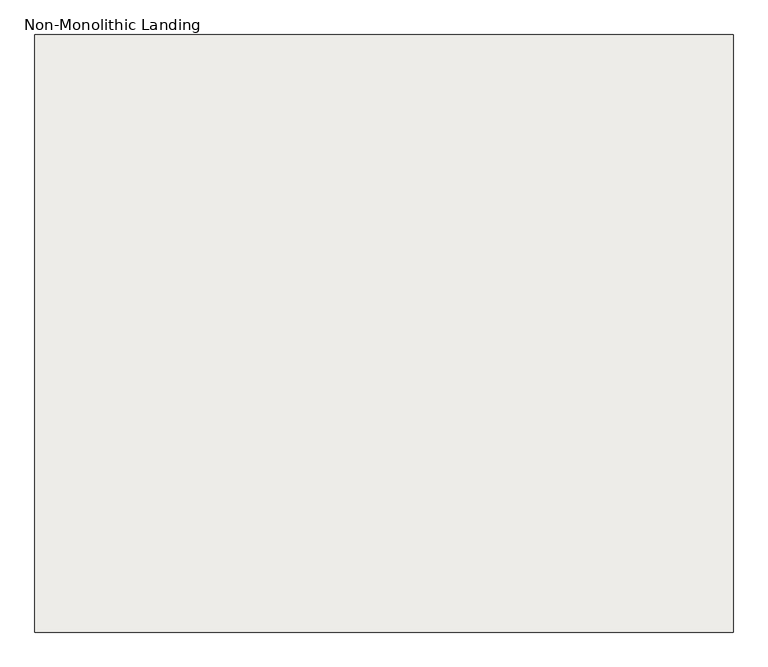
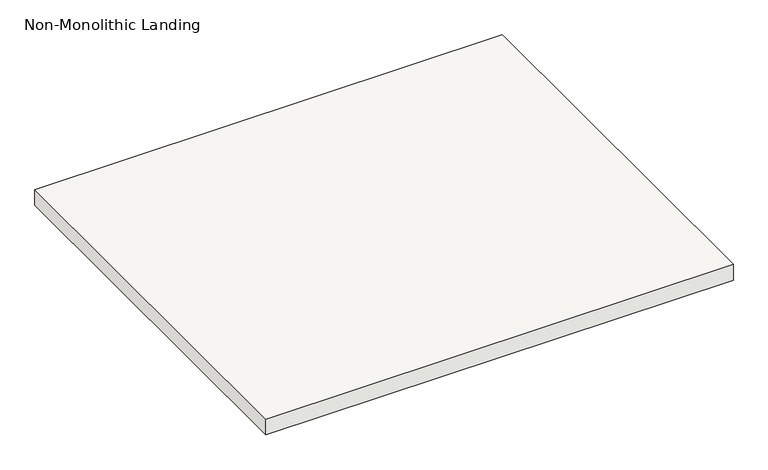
"""IFC4 building model written with IfcOpenShell, lengths in millimetres: slab geometry, Non-Monolithic Landing."""

import ifcopenshell
import ifcopenshell.guid

model = None  # the IFC model being written
_history = None  # IfcOwnerHistory: only IFC2X3 demands one
_inside = {}  # id of a spatial element -> (the spatial element, [elements in it])
_under = {}  # id of a project, library or spatial element -> (it, [spatial elements below it])
_declared = {}  # id of a project -> (the project, [libraries it declares])
_typed = {}  # id of a type object -> (the type object, [elements of that type])
_made_of = {}  # id of a material, layer set ... -> (it, [elements and type objects made of it])


def new_model(schema):
    """Start an empty IFC model of exactly this schema.

    Asked for "IFC4X3", IfcOpenShell would pick the latest addendum, in which some entities
    have other attributes; the version numbers below select the first issue.
    IFC2X3 requires an IfcOwnerHistory on every rooted entity: one is made here for all.
    """
    global model, _history
    if schema == "IFC4X3":
        model = ifcopenshell.file(schema_version=(4, 3, 0, 0))
    else:
        model = ifcopenshell.file(schema=schema)
    _inside.clear()
    _under.clear()
    _declared.clear()
    _typed.clear()
    _made_of.clear()
    _history = None
    if model.schema == "IFC2X3":
        org = make("IfcOrganization", Name="unknown")
        user = make(
            "IfcPersonAndOrganization",
            ThePerson=make("IfcPerson", FamilyName="unknown"),
            TheOrganization=org,
        )
        app = make(
            "IfcApplication",
            ApplicationDeveloper=org,
            Version="unknown",
            ApplicationFullName="unknown",
            ApplicationIdentifier="unknown",
        )
        _history = make(
            "IfcOwnerHistory",
            OwningUser=user,
            OwningApplication=app,
            ChangeAction="ADDED",
            CreationDate=0,
        )
    return model


def make(cls, **values):
    """One entity of the class cls with the attributes given. An attribute that is None is left unset."""
    return model.create_entity(
        cls, **{name: value for name, value in values.items() if value is not None}
    )


def rooted(cls, **values):
    """An entity with a GlobalId (a new one), such as an element, a storey or a relation."""
    return make(cls, GlobalId=ifcopenshell.guid.new(), OwnerHistory=_history, **values)


def si_unit(unit_type, name, prefix=None):
    """IfcSIUnit, for example si_unit("LENGTHUNIT", "METRE", prefix="MILLI")."""
    return make("IfcSIUnit", UnitType=unit_type, Prefix=prefix, Name=name)


def assignment(units):
    """IfcUnitAssignment: the units of a project."""
    return None if units is None else make("IfcUnitAssignment", Units=units)


def point(xyz):
    """IfcCartesianPoint."""
    return None if xyz is None else make("IfcCartesianPoint", Coordinates=xyz)


def direction(xyz):
    """IfcDirection."""
    return None if xyz is None else make("IfcDirection", DirectionRatios=xyz)


def frame(location, z_axis=None, x_axis=None):
    """IfcAxis2Placement3D, a coordinate frame: its origin and axes. An axis left out is left unset."""
    return make(
        "IfcAxis2Placement3D",
        Location=point(location),
        Axis=direction(z_axis),
        RefDirection=direction(x_axis),
    )


def origin():
    """The frame at (0, 0, 0) with its axes left unset."""
    return frame((0.0, 0.0, 0.0))


def place(relative_to, where):
    """IfcLocalPlacement: puts the frame where relative to a parent placement (None: the world)."""
    return make(
        "IfcLocalPlacement", PlacementRelTo=relative_to, RelativePlacement=where
    )


def context(
    kind, dimensions, precision=None, world=None, true_north=None, identifier=None
):
    """IfcGeometricRepresentationContext, for example the 3D "Model" context."""
    return make(
        "IfcGeometricRepresentationContext",
        ContextIdentifier=identifier,
        ContextType=kind,
        CoordinateSpaceDimension=dimensions,
        Precision=precision,
        WorldCoordinateSystem=world,
        TrueNorth=true_north,
    )


def project(units=None, contexts=None):
    """IfcProject with its units and contexts."""
    return rooted(
        "IfcProject",
        Name="project",
        RepresentationContexts=contexts,
        UnitsInContext=assignment(units),
    )


def spatial(cls, under=None, at=None, **own):
    """A site, building, storey or space (cls), placed at a placement, below another one or the project."""
    s = rooted(cls, ObjectPlacement=at, **own)
    if under is not None:
        _under.setdefault(under.id(), (under, []))[1].append(s)
    return s


def polyline(points):
    """IfcPolyline through the points."""
    return make("IfcPolyline", Points=[point(p) for p in points])


def outline(outer, holes=None, kind="AREA"):
    """IfcArbitraryClosedProfileDef: a profile drawn as a closed curve; with holes, ...WithVoids."""
    if holes is None:
        return make("IfcArbitraryClosedProfileDef", ProfileType=kind, OuterCurve=outer)
    return make(
        "IfcArbitraryProfileDefWithVoids",
        ProfileType=kind,
        OuterCurve=outer,
        InnerCurves=holes,
    )


def extrude(swept, where, along, depth):
    """IfcExtrudedAreaSolid: the profile swept, set in the frame where, extruded along a direction by depth."""
    return make(
        "IfcExtrudedAreaSolid",
        SweptArea=swept,
        Position=where,
        ExtrudedDirection=direction(along),
        Depth=depth,
    )


def shape(context_of_items, identifier, shape_type, items):
    """IfcShapeRepresentation: the items that make up one representation, for example the "Body"."""
    return make(
        "IfcShapeRepresentation",
        ContextOfItems=context_of_items,
        RepresentationIdentifier=identifier,
        RepresentationType=shape_type,
        Items=items,
    )


def source(mapping_origin, context_of_items, identifier, shape_type, items):
    """IfcRepresentationMap: a shape defined once, which mapped items show again and again."""
    return make(
        "IfcRepresentationMap",
        MappingOrigin=mapping_origin,
        MappedRepresentation=shape(context_of_items, identifier, shape_type, items),
    )


def transform(
    local_origin,
    x_axis=None,
    y_axis=None,
    z_axis=None,
    scale=None,
    scale2=None,
    scale3=None,
    uniform=True,
):
    """IfcCartesianTransformationOperator3D, or its non-uniform kind. x_axis, y_axis, z_axis: its Axis1, 2, 3."""
    if uniform:
        return make(
            "IfcCartesianTransformationOperator3D",
            Axis1=direction(x_axis),
            Axis2=direction(y_axis),
            LocalOrigin=point(local_origin),
            Scale=scale,
            Axis3=direction(z_axis),
        )
    return make(
        "IfcCartesianTransformationOperator3DnonUniform",
        Axis1=direction(x_axis),
        Axis2=direction(y_axis),
        LocalOrigin=point(local_origin),
        Scale=scale,
        Axis3=direction(z_axis),
        Scale2=scale2,
        Scale3=scale3,
    )


def mapped(mapping_source, mapping_target):
    """IfcMappedItem: shows the shape of a source again, moved by a transform."""
    return make(
        "IfcMappedItem", MappingSource=mapping_source, MappingTarget=mapping_target
    )


def made_of(thing, what):
    """Note that an element or type object is made of a material, layer set ...; save() writes the relation."""
    if what is not None:
        _made_of.setdefault(what.id(), (what, []))[1].append(thing)
    return thing


def element(
    cls,
    number,
    at=None,
    inside=None,
    cuts=None,
    type_object=None,
    material=None,
    context=None,
    identifier="Body",
    shape_type=None,
    held_by="IfcProductDefinitionShape",
    body=None,
    shapes=None,
    **own,
):
    """One element of the class cls, such as IfcWall. Its Tag is "e" and its number.

    at: its placement. inside: the storey or other place that contains it. cuts: it is an
    opening in that element (IfcRelVoidsElement). A single representation is given by context,
    identifier, shape_type and body (its items); several are given by shapes. held_by: the class
    of the entity that holds the representations. save() writes the other relations.
    """
    e = rooted(cls, Tag="e%d" % number, ObjectPlacement=at, **own)
    if body is not None:
        shapes = [shape(context, identifier, shape_type, body)]
    if shapes is not None:
        e.Representation = make(held_by, Representations=shapes)
    if inside is not None:
        _inside.setdefault(inside.id(), (inside, []))[1].append(e)
    if cuts is not None:
        rooted(
            "IfcRelVoidsElement", RelatingBuildingElement=cuts, RelatedOpeningElement=e
        )
    if type_object is not None:
        _typed.setdefault(type_object.id(), (type_object, []))[1].append(e)
    return made_of(e, material)


def aggregate(whole, parts):
    """IfcRelAggregates: a whole, such as a stair, and the parts it consists of."""
    return rooted("IfcRelAggregates", RelatingObject=whole, RelatedObjects=parts)


def save(model, path):
    """Write the relations noted so far, then the file.

    IfcRelAggregates (storeys below a building ...), IfcRelContainedInSpatialStructure (elements
    in a storey), IfcRelDefinesByType, IfcRelAssociatesMaterial and IfcRelDeclares: one each for
    every whole, place, type object, material and project.
    """
    for whole, parts in _under.values():
        aggregate(whole, parts)
    for where, things in _inside.values():
        rooted(
            "IfcRelContainedInSpatialStructure",
            RelatedElements=things,
            RelatingStructure=where,
        )
    for kind, things in _typed.values():
        rooted("IfcRelDefinesByType", RelatedObjects=things, RelatingType=kind)
    for what, things in _made_of.values():
        rooted("IfcRelAssociatesMaterial", RelatedObjects=things, RelatingMaterial=what)
    for by, libraries in _declared.values():
        rooted("IfcRelDeclares", RelatingContext=by, RelatedDefinitions=libraries)
    model.write(path)


def non_monolithic_landing_e078cbeb(model_context):
    return source(origin(), model_context, "Body", "SweptSolid", [
        extrude(outline(polyline([(-83397.1407976, 10139.2777512), (-84799.0398328, 10139.2777512), (-84799.0398328, 11339.2777512), (-83397.1407976, 11339.2777512), (-83397.1407976, 10139.2777512)])), frame((0.0, 0.0, 47632.1765531), z_axis=(0.0, 0.0, 1.0), x_axis=(1.0, 0.0, 0.0)), (0.0, 0.0, 1.0), 50.0),
    ])


if __name__ == "__main__":
    model = new_model("IFC4")
    model_context = context("Model", 3, world=origin())
    ifc_project = project(units=[si_unit("LENGTHUNIT", "METRE", prefix="MILLI")], contexts=[model_context])
    site = spatial("IfcSite", under=ifc_project)
    building = spatial("IfcBuilding", under=site)
    placement = place(None, origin())
    non_monolithic_landing_shape = non_monolithic_landing_e078cbeb(model_context)
    element("IfcSlab", 1, ObjectType="Non-Monolithic Landing", at=placement, inside=building, context=model_context, shape_type="MappedRepresentation", body=[
        mapped(non_monolithic_landing_shape, transform((0.0, 0.0, 0.0), x_axis=(1.0, 0.0, 0.0), y_axis=(0.0, 1.0, 0.0), z_axis=(0.0, 0.0, 1.0))),
    ])
    save(model, "model.ifc")
